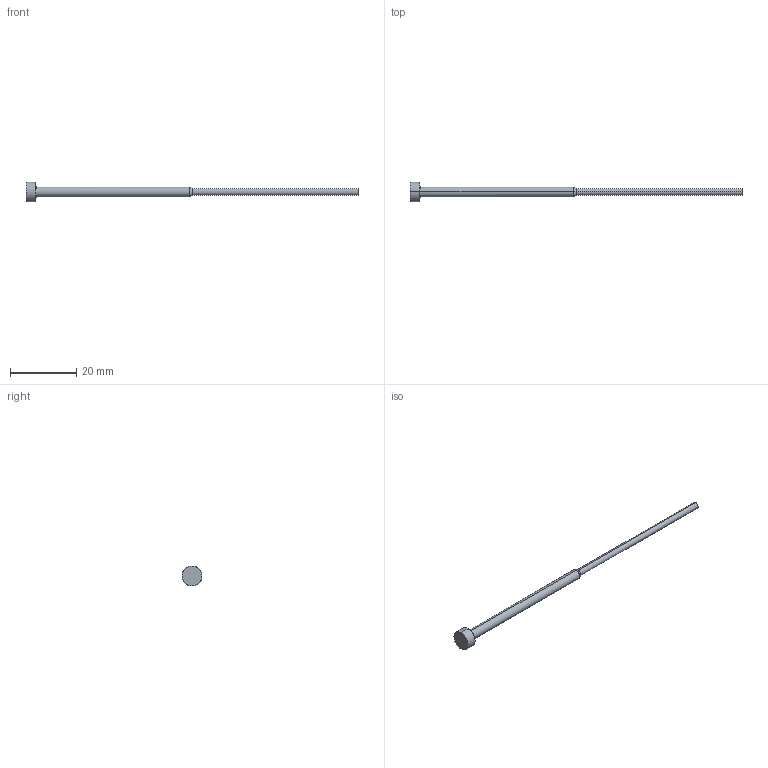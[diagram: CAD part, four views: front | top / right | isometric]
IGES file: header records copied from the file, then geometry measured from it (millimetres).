
Start section: START RECORD GO HERE.
Global section: file name: 359-2X3X100.igs; native system: DASSAULT SYSTEMES CATIA V5 R20 - www.3ds.com; preprocessor: CATIA Version 5 Release 20 ; author: Utente; organization: NB04-ASUS; date: 20210514.202145; units: millimetre
Bounding box: 100 x 6 x 6 mm (x, y, z)
Surface area: 864.8 mm2 (no closed solid volume)
Topology: 0 solids, 0 shells, 13 faces, 76 edges, 76 vertices
Faces by surface type: revolution 10, plane 3
